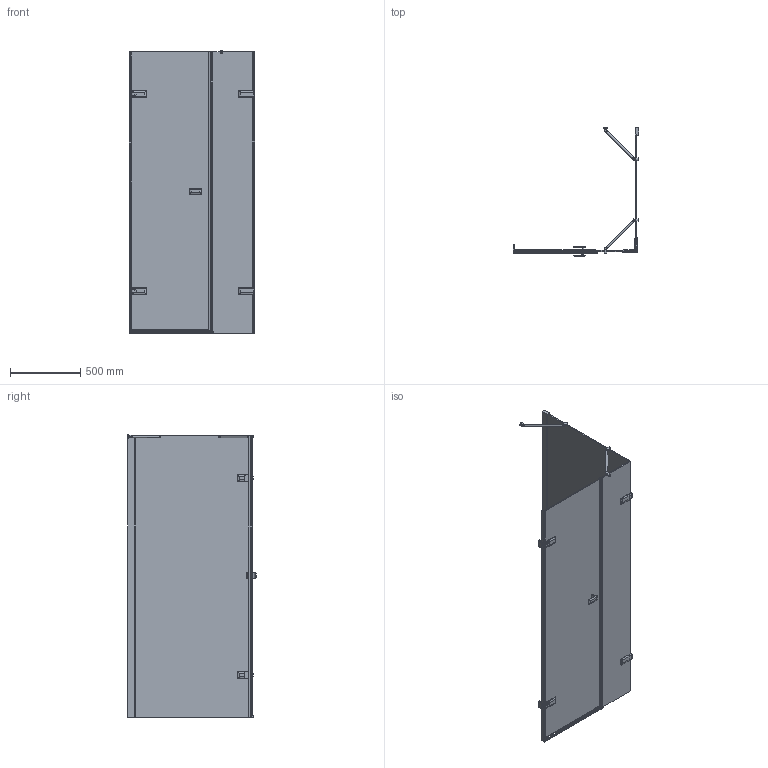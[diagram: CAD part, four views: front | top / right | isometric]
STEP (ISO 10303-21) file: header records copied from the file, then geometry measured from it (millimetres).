
FILE_DESCRIPTION(/* description */ (''),/* implementation_level */ '2;1');
FILE_NAME(/* name */ 'E:\Работа\Сергей\Душевые кабинки\! Работа\TREND SQUARE GK-863CPTWO\TREND SQUARE GK-863CPTWO левая модель\TREND SQUARE GK-863CPTWO ЛЕВАЯ-3D.stp',/* time_stamp */ '2017-09-01T18:57:53+03:00',/* author */ ('PC'),/* organization */ (''),/* preprocessor_version */ 'ST-DEVELOPER v15.2',/* originating_system */ 'Autodesk Inventor 2014',/* authorisation */ '');
FILE_SCHEMA (('AUTOMOTIVE_DESIGN { 1 0 10303 214 3 1 1 }'));
Length unit declared in the file: millimetre
Products named in the file (1): TREND SQUARE GK-863CPTWO ЛЕВАЯ-
3D
Bounding box: 893.8 x 912.74 x 2009.49 mm (x, y, z)
Volume: 28303699.9 mm3; surface area: 7546317.6 mm2
Topology: 7 solids, 9 shells, 1001 faces, 2748 edges, 1809 vertices
Faces by surface type: plane 602, cylinder 273, bspline 82, torus 34, sphere 8, cone 2
Full cylindrical faces by diameter (mm): 12 x2, 15 x2, 20 x4, 26 x1
Entity records: 35931 total; most frequent: CARTESIAN_POINT 10221, ORIENTED_EDGE 5146, DIRECTION 5011, EDGE_CURVE 2573, LINE 1833, VECTOR 1833, VERTEX_POINT 1603, AXIS2_PLACEMENT_3D 1589
